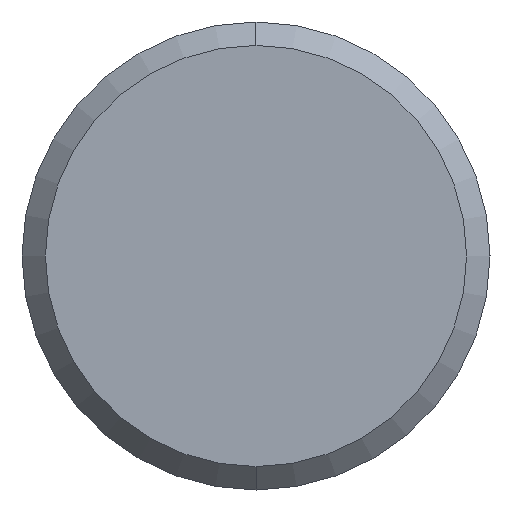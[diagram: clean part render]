
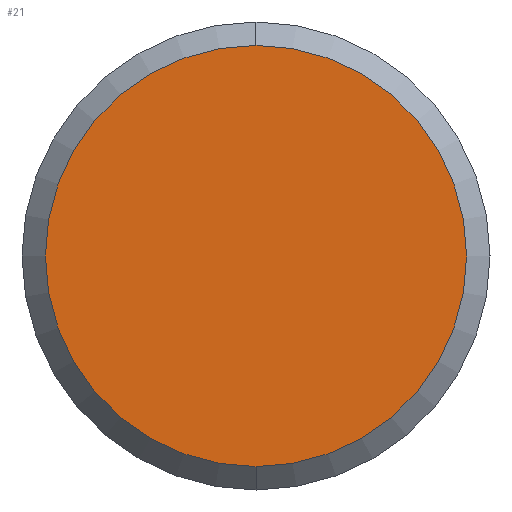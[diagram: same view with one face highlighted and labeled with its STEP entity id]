
A CAD part, left-side view. The second image highlights one B-rep face of the part: STEP entity #21.
In plain terms, the highlighted planar face has unit normal (-1, 0, 0).
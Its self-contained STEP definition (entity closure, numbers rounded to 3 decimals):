
#1=CARTESIAN_POINT('POINT1',(-9.042,0.,
   3.212));
#2=VERTEX_POINT('VERTEX1',#1);
#3=CARTESIAN_POINT('POINT2',(-9.042,0.,
   -3.212));
#4=VERTEX_POINT('VERTEX2',#3);
#5=CARTESIAN_POINT('POS1',(-9.042,0.,0.)
   );
#6=DIRECTION('DIR1',(1.,0.,
   0.));
#7=DIRECTION('DIR2',(0.,0.,
   1.));
#8=AXIS2_PLACEMENT_3D('AXIS1',#5,#6,#7);
#9=CIRCLE('ELLIPSE1',#8,3.212);
#10=EDGE_CURVE('EDGE1',#2,#4,#9,.T.);
#11=ORIENTED_EDGE('COEDGE1',*,*,#10,.F.);
#12=EDGE_CURVE('EDGE2',#4,#2,#9,.T.);
#13=ORIENTED_EDGE('COEDGE2',*,*,#12,.F.);
#14=EDGE_LOOP('NONE',(#11,#13));
#15=FACE_BOUND('LOOP1',#14,.T.);
#16=CARTESIAN_POINT('POS2',(-9.042,0.,
   1.606));
#17=DIRECTION('DIR3',(-1.,0.,0.));
#18=DIRECTION('DIR4',(0.,1.,0.));
#19=AXIS2_PLACEMENT_3D('AXIS2',#16,#17,#18);
#20=PLANE('PLANE1',#19);
#21=ADVANCED_FACE('FACE1',(#15),#20,.T.);
